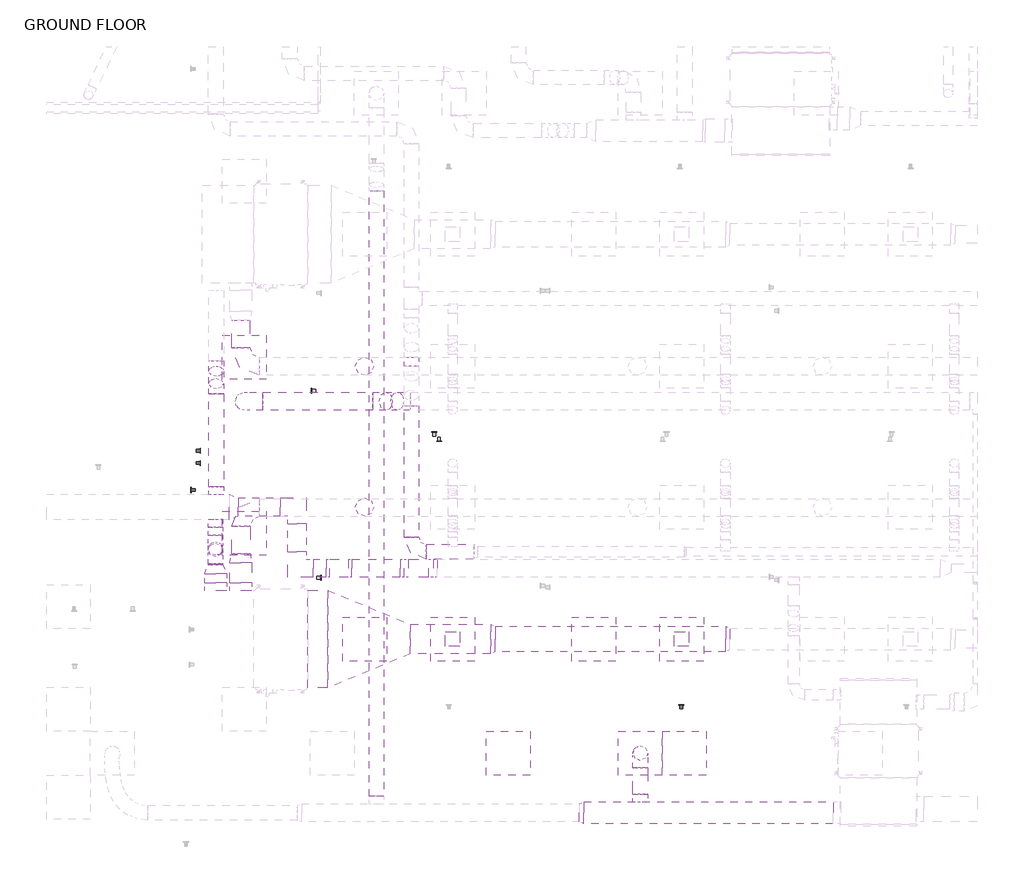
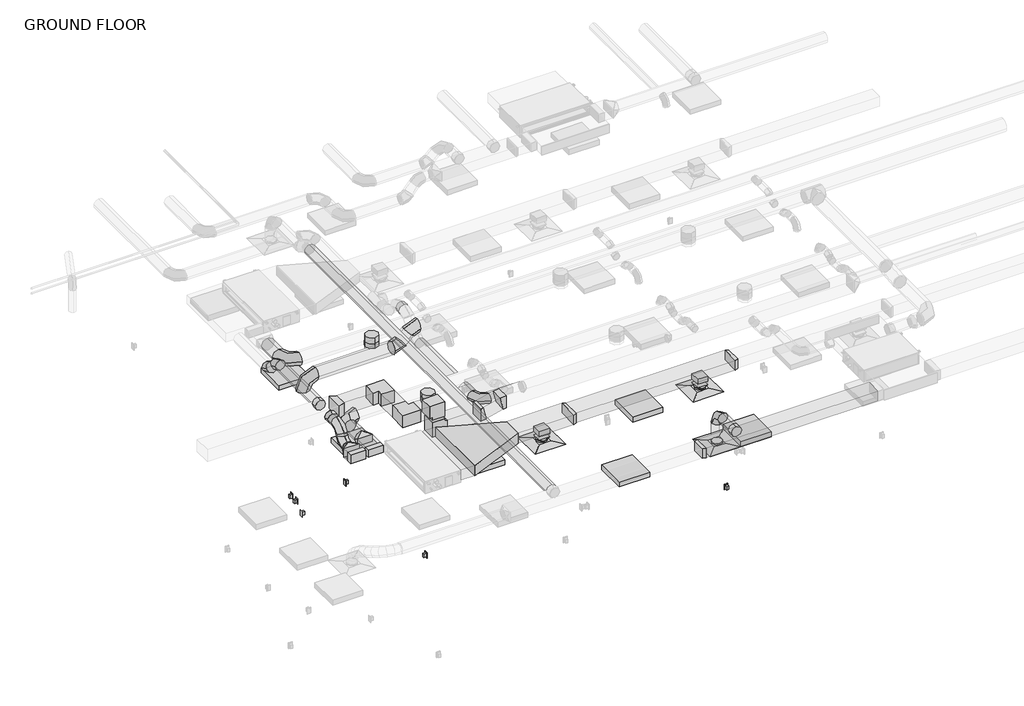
# One storey, part 2 of 20: 35 duct fittings, 31 duct segments, 6 light fixtures, 4 proxies, 4 switching devices, 3 air terminals.
"""IFC4 building model written with IfcOpenShell, lengths in millimetres."""

from ifc_helpers import new_model, si_unit, point, frame, frame_2d, origin, place, context, project, spatial, polyline, circle_curve, trimmed, segment, composite_curve, outline, extrude, transform, mapped, element, save
from components import air_terminal_e9020785, duplex_receptacle_countertop_10251bba, rectangular_elbow_mitered_transition_standard_c0ad29cc, rectangular_elbow_mitered_transition_standard_35919474, rectangular_elbow_radius_1_5_w_4707421c, rectangular_takeoff_standard_d07ea574, rectangular_takeoff_standard_fde45e03, rectangular_takeoff_standard_a8f316fd, rectangular_transition_angle_45_degree_1d311e81, rectangular_transition_angle_45_degree_791ae252, rectangular_transition_angle_45_degree_a1440fe9, rectangular_transition_angle_45_degree_05e1d5e5, rectangular_transition_angle_45_degree_612073dc, rectangular_to_round_transition_angle_45_degree_5a025447, rectangular_to_round_transition_angle_45_degree_789dc1ad, rectangular_to_round_transition_angle_45_degree_93942259, round_elbow_1_d_a253342a, round_elbow_1_d_6fec3262, round_elbow_1_d_ab3aa7ba, round_elbow_1_d_ea3dccb8, round_elbow_1_d_e523f96f, round_takeoff_standard_161717b3, round_takeoff_standard_d3b0d0f9, round_takeoff_standard_1127d77f, round_takeoff_standard_c386a54e, troffer_corner_insert_2x2_3lamp_e67c7f8f

model = new_model("IFC4")

# Units and contexts
model_context = context("Model", 3, world=origin())
ifc_project = project(units=[si_unit("LENGTHUNIT", "METRE", prefix="MILLI")], contexts=[model_context])

# Site, building, storey
site = spatial("IfcSite", under=ifc_project)
building = spatial("IfcBuilding", under=site)
storey = spatial("IfcBuildingStorey", under=building, Name="GROUND FLOOR", Elevation=30480.0)

# Air terminals
placement = place(None, origin())
air_terminal_shape = air_terminal_e9020785(model_context)
element("IfcAirTerminal", 1, ObjectType="Supply Diffuser - Rectangular Face Round Neck - Hosted : 24\"x24\" Face 8\" Neck - Hosted", at=placement, inside=storey, context=model_context, shape_type="MappedRepresentation", body=[
    mapped(air_terminal_shape, transform((-3970.9704607, -4228.1054995, 33223.2), x_axis=(0.0, -1.0, 0.0), y_axis=(-1.0, 0.0, 0.0), z_axis=(0.0, 0.0, -1.0))),
])
element("IfcAirTerminal", 2, ObjectType="Supply Diffuser - Rectangular Face Round Neck - Hosted : 24\"x24\" Face 8\" Neck - Hosted", at=placement, inside=storey, context=model_context, shape_type="MappedRepresentation", body=[
    mapped(air_terminal_shape, transform((-799.1454607, -4228.1054995, 33223.2), x_axis=(0.0, -1.0, 0.0), y_axis=(-1.0, 0.0, 0.0), z_axis=(0.0, 0.0, -1.0))),
])
element("IfcAirTerminal", 3, ObjectType="Supply Diffuser - Rectangular Face Round Neck - Hosted : 24\"x24\" Face 8\" Neck - Hosted", at=placement, inside=storey, context=model_context, shape_type="MappedRepresentation", body=[
    mapped(air_terminal_shape, transform((-1370.6454607, -5809.2554995, 33223.2), x_axis=(0.0, -1.0, 0.0), y_axis=(-1.0, 0.0, 0.0), z_axis=(0.0, 0.0, -1.0))),
])

# Proxies
duplex_receptacle_countertop_shape = duplex_receptacle_countertop_10251bba(model_context)
element("IfcBuildingElementProxy", 4, Name="Duplex Receptacle : Standard", ObjectType="Duplex Receptacle : Standard", at=placement, inside=storey, context=model_context, shape_type="MappedRepresentation", body=[
    mapped(duplex_receptacle_countertop_shape, transform((-5799.7704607, -3377.6052402, 30937.2), x_axis=(0.0, 1.0, 0.0), y_axis=(0.0, 0.0, 1.0), z_axis=(1.0, 0.0, 0.0))),
])
element("IfcBuildingElementProxy", 5, Name="Duplex Receptacle : Standard", ObjectType="Duplex Receptacle : Standard", at=placement, inside=storey, context=model_context, shape_type="MappedRepresentation", body=[
    mapped(duplex_receptacle_countertop_shape, transform((-4158.8399036, -1484.9054995, 30937.2), x_axis=(1.0, 0.0, 0.0), y_axis=(0.0, 0.0, 1.0), z_axis=(0.0, -1.0, 0.0))),
])
element("IfcBuildingElementProxy", 6, Name="Duplex Receptacle : Standard", ObjectType="Duplex Receptacle : Standard", at=placement, inside=storey, context=model_context, shape_type="MappedRepresentation", body=[
    mapped(duplex_receptacle_countertop_shape, transform((-4224.9569269, -1361.0804995, 30937.2), x_axis=(-1.0, 0.0, 0.0), y_axis=(0.0, 0.0, 1.0), z_axis=(0.0, 1.0, 0.0))),
])
element("IfcBuildingElementProxy", 7, Name="Duplex Receptacle : Standard", ObjectType="Duplex Receptacle : Standard", at=placement, inside=storey, context=model_context, shape_type="MappedRepresentation", body=[
    mapped(duplex_receptacle_countertop_shape, transform((-5923.5954607, -788.0218283, 30937.2), x_axis=(0.0, -1.0, 0.0), y_axis=(0.0, 0.0, 1.0), z_axis=(-1.0, 0.0, 0.0))),
])

# Duct fittings
rectangular_elbow_mitered_transition_standard_shape = rectangular_elbow_mitered_transition_standard_c0ad29cc(model_context)
element("IfcDuctFitting", 8, ObjectType="Rectangular Elbow - Mitered - Transition : Standard", at=placement, inside=storey, context=model_context, shape_type="MappedRepresentation", body=[
    mapped(rectangular_elbow_mitered_transition_standard_shape, transform((-6128.144811, -2399.3054995, 33909.0), x_axis=(0.0, 1.0, 0.0), y_axis=(-1.0, 0.0, 0.0), z_axis=(0.0, 0.0, 1.0))),
])
element("IfcDuctFitting", 9, ObjectType="Rectangular Elbow - Mitered - Transition : Standard", at=placement, inside=storey, context=model_context, shape_type="MappedRepresentation", body=[
    mapped(rectangular_elbow_mitered_transition_standard_shape, transform((-6128.144811, -3245.6216457, 33909.0), x_axis=(0.0, -1.0, 0.0), y_axis=(1.0, 0.0, 0.0), z_axis=(0.0, 0.0, 1.0))),
])
rectangular_elbow_mitered_transition_standard_2_shape = rectangular_elbow_mitered_transition_standard_35919474(model_context)
element("IfcDuctFitting", 10, ObjectType="Rectangular Elbow - Mitered - Transition : Standard", at=placement, inside=storey, context=model_context, shape_type="MappedRepresentation", body=[
    mapped(rectangular_elbow_mitered_transition_standard_2_shape, transform((-5543.944811, -3245.6216457, 33909.0), x_axis=(1.0, 0.0, 0.0), y_axis=(0.0, 0.0, -1.0), z_axis=(0.0, 1.0, 0.0))),
])
element("IfcDuctFitting", 11, ObjectType="Rectangular Elbow - Mitered - Transition : Standard", at=placement, inside=storey, context=model_context, shape_type="MappedRepresentation", body=[
    mapped(rectangular_elbow_mitered_transition_standard_2_shape, transform((-5543.944811, -3245.6216457, 33502.6), x_axis=(-1.0, 0.0, 0.0), y_axis=(0.0, 0.0, 1.0), z_axis=(0.0, 1.0, 0.0))),
])
rectangular_elbow_radius_1_5_w_shape = rectangular_elbow_radius_1_5_w_4707421c(model_context)
element("IfcDuctFitting", 12, ObjectType="Rectangular Elbow - Radius : 1.5 W", at=placement, inside=storey, context=model_context, shape_type="MappedRepresentation", body=[
    mapped(rectangular_elbow_radius_1_5_w_shape, transform((-4654.944811, -3245.6216457, 33502.6), x_axis=(1.0, 0.0, 0.0), y_axis=(0.0, 0.0, 1.0), z_axis=(0.0, -1.0, 0.0))),
])
element("IfcDuctFitting", 13, ObjectType="Rectangular Elbow - Radius : 1.5 W", at=placement, inside=storey, context=model_context, shape_type="MappedRepresentation", body=[
    mapped(rectangular_elbow_radius_1_5_w_shape, transform((-4228.8077618, -3245.6216457, 33602.867541), x_axis=(-1.0, 0.0, 0.0), y_axis=(0.0, 0.0, -1.0), z_axis=(0.0, -1.0, 0.0))),
])
rectangular_takeoff_standard_shape = rectangular_takeoff_standard_d07ea574(model_context)
element("IfcDuctFitting", 14, ObjectType="Rectangular Takeoff : Standard", at=placement, inside=storey, context=model_context, shape_type="MappedRepresentation", body=[
    mapped(rectangular_takeoff_standard_shape, transform((-799.1454607, -4228.1054995, 33502.6), x_axis=(0.0, 0.0, -1.0), y_axis=(1.0, 0.0, 0.0), z_axis=(0.0, -1.0, 0.0))),
])
element("IfcDuctFitting", 15, ObjectType="Rectangular Takeoff : Standard", at=placement, inside=storey, context=model_context, shape_type="MappedRepresentation", body=[
    mapped(rectangular_takeoff_standard_shape, transform((-3970.9704607, -4228.1054995, 33502.6), x_axis=(0.0, 0.0, -1.0), y_axis=(1.0, 0.0, 0.0), z_axis=(0.0, -1.0, 0.0))),
])
rectangular_takeoff_standard_2_shape = rectangular_takeoff_standard_fde45e03(model_context)
element("IfcDuctFitting", 16, ObjectType="Rectangular Takeoff : Standard", at=placement, inside=storey, context=model_context, shape_type="MappedRepresentation", body=[
    mapped(rectangular_takeoff_standard_2_shape, transform((-6905.278652, -3550.2429995, 33617.69375), x_axis=(0.0, 1.0, 0.0), y_axis=(-1.0, 0.0, 0.0), z_axis=(0.0, 0.0, 1.0))),
])
rectangular_takeoff_standard_3_shape = rectangular_takeoff_standard_a8f316fd(model_context)
element("IfcDuctFitting", 17, ObjectType="Rectangular Takeoff : Standard", at=placement, inside=storey, context=model_context, shape_type="MappedRepresentation", body=[
    mapped(rectangular_takeoff_standard_3_shape, transform((-7257.09369, -3550.2429995, 33617.69375), x_axis=(0.0, 1.0, 0.0), y_axis=(1.0, 0.0, 0.0), z_axis=(0.0, 0.0, -1.0))),
])
rectangular_transition_angle_45_degree_shape = rectangular_transition_angle_45_degree_1d311e81(model_context)
element("IfcDuctFitting", 18, ObjectType="Rectangular Transition - Angle : 45 Degree", at=placement, inside=storey, context=model_context, shape_type="MappedRepresentation", body=[
    mapped(rectangular_transition_angle_45_degree_shape, transform((-2152.8792966, -6635.2850038, 33877.25), x_axis=(-1.0, 0.0, 0.0), y_axis=(0.0, -1.0, 0.0), z_axis=(0.0, 0.0, 1.0))),
])
rectangular_transition_angle_45_degree_2_shape = rectangular_transition_angle_45_degree_791ae252(model_context)
element("IfcDuctFitting", 19, ObjectType="Rectangular Transition - Angle : 45 Degree", at=placement, inside=storey, context=model_context, shape_type="MappedRepresentation", body=[
    mapped(rectangular_transition_angle_45_degree_2_shape, transform((-3441.5200089, -4228.1054995, 33604.2), x_axis=(1.0, 0.0, 0.0), y_axis=(0.0, 1.0, 0.0), z_axis=(0.0, 0.0, 1.0))),
])
rectangular_transition_angle_45_degree_3_shape = rectangular_transition_angle_45_degree_a1440fe9(model_context)
element("IfcDuctFitting", 20, ObjectType="Rectangular Transition - Angle : 45 Degree", at=placement, inside=storey, context=model_context, shape_type="MappedRepresentation", body=[
    mapped(rectangular_transition_angle_45_degree_3_shape, transform((-189.5454607, -4228.1054995, 33604.2), x_axis=(1.0, 0.0, 0.0), y_axis=(0.0, 1.0, 0.0), z_axis=(0.0, 0.0, 1.0))),
])
rectangular_transition_angle_45_degree_4_shape = rectangular_transition_angle_45_degree_05e1d5e5(model_context)
element("IfcDuctFitting", 21, ObjectType="Rectangular Transition - Angle : 45 Degree", at=placement, inside=storey, context=model_context, shape_type="MappedRepresentation", body=[
    mapped(rectangular_transition_angle_45_degree_4_shape, transform((-4556.1833638, -4228.1054995, 33604.2), x_axis=(-1.0, 0.0, 0.0), y_axis=(0.0, -1.0, 0.0), z_axis=(0.0, 0.0, 1.0))),
])
rectangular_transition_angle_45_degree_5_shape = rectangular_transition_angle_45_degree_612073dc(model_context)
element("IfcDuctFitting", 22, ObjectType="Rectangular Transition - Angle : 45 Degree", at=placement, inside=storey, context=model_context, shape_type="MappedRepresentation", body=[
    mapped(rectangular_transition_angle_45_degree_5_shape, transform((-7067.944811, -2399.3054995, 33909.0), x_axis=(1.0, 0.0, 0.0), y_axis=(0.0, 1.0, 0.0), z_axis=(0.0, 0.0, 1.0))),
])
rectangular_to_round_transition_angle_45_degree_shape = rectangular_to_round_transition_angle_45_degree_5a025447(model_context)
element("IfcDuctFitting", 23, ObjectType="Rectangular to Round Transition - Angle : 45 Degree", at=placement, inside=storey, context=model_context, shape_type="MappedRepresentation", body=[
    mapped(rectangular_to_round_transition_angle_45_degree_shape, transform((-799.1454607, -4228.1054995, 33327.975), x_axis=(0.0, 0.0, -1.0), y_axis=(1.0, 0.0, 0.0), z_axis=(0.0, -1.0, 0.0))),
])
element("IfcDuctFitting", 24, ObjectType="Rectangular to Round Transition - Angle : 45 Degree", at=placement, inside=storey, context=model_context, shape_type="MappedRepresentation", body=[
    mapped(rectangular_to_round_transition_angle_45_degree_shape, transform((-3970.9704607, -4228.1054995, 33327.975), x_axis=(0.0, 0.0, -1.0), y_axis=(1.0, 0.0, 0.0), z_axis=(0.0, -1.0, 0.0))),
])
rectangular_to_round_transition_angle_45_degree_2_shape = rectangular_to_round_transition_angle_45_degree_789dc1ad(model_context)
element("IfcDuctFitting", 25, ObjectType="Rectangular to Round Transition - Angle : 45 Degree", at=placement, inside=storey, context=model_context, shape_type="MappedRepresentation", body=[
    mapped(rectangular_to_round_transition_angle_45_degree_2_shape, transform((-6905.278652, -3169.2429995, 33617.69375), x_axis=(0.0, 1.0, 0.0), y_axis=(-1.0, 0.0, 0.0), z_axis=(0.0, 0.0, 1.0))),
])
rectangular_to_round_transition_angle_45_degree_3_shape = rectangular_to_round_transition_angle_45_degree_93942259(model_context)
element("IfcDuctFitting", 26, ObjectType="Rectangular to Round Transition - Angle : 45 Degree", at=placement, inside=storey, context=model_context, shape_type="MappedRepresentation", body=[
    mapped(rectangular_to_round_transition_angle_45_degree_3_shape, transform((-7257.09369, -3321.6429995, 33617.69375), x_axis=(0.0, 1.0, 0.0), y_axis=(-1.0, 0.0, 0.0), z_axis=(0.0, 0.0, 1.0))),
])
round_elbow_1_d_shape = round_elbow_1_d_a253342a(model_context)
element("IfcDuctFitting", 27, ObjectType="Round Elbow : 1 D", at=placement, inside=storey, context=model_context, shape_type="MappedRepresentation", body=[
    mapped(round_elbow_1_d_shape, transform((-4541.976464, -3019.0145579, 33528.0), x_axis=(0.0, -1.0, 0.0), y_axis=(1.0, 0.0, 0.0), z_axis=(0.0, 0.0, 1.0))),
])
element("IfcDuctFitting", 28, ObjectType="Round Elbow : 1 D", at=placement, inside=storey, context=model_context, shape_type="MappedRepresentation", body=[
    mapped(round_elbow_1_d_shape, transform((-1370.6454607, -5809.2554995, 33877.25), x_axis=(0.0, 0.0, 1.0), y_axis=(0.0, -1.0, 0.0), z_axis=(1.0, 0.0, 0.0))),
])
round_elbow_1_d_2_shape = round_elbow_1_d_6fec3262(model_context)
element("IfcDuctFitting", 29, ObjectType="Round Elbow : 1 D", at=placement, inside=storey, context=model_context, shape_type="MappedRepresentation", body=[
    mapped(round_elbow_1_d_2_shape, transform((-6857.0454607, -932.4554995, 33578.8), x_axis=(0.0, 0.0, 1.0), y_axis=(1.0, 0.0, 0.0), z_axis=(0.0, 1.0, 0.0))),
])
element("IfcDuctFitting", 30, ObjectType="Round Elbow : 1 D", at=placement, inside=storey, context=model_context, shape_type="MappedRepresentation", body=[
    mapped(round_elbow_1_d_2_shape, transform((-6905.278652, -2407.6759121, 33617.69375), x_axis=(-1.0, 0.0, 0.0), y_axis=(0.0, -1.0, 0.0), z_axis=(0.0, 0.0, 1.0))),
])
element("IfcDuctFitting", 31, ObjectType="Round Elbow : 1 D", at=placement, inside=storey, context=model_context, shape_type="MappedRepresentation", body=[
    mapped(round_elbow_1_d_2_shape, transform((-6907.4143044, -446.6804995, 33617.69375), x_axis=(0.0, -1.0, 0.0), y_axis=(1.0, 0.0, 0.0), z_axis=(0.0, 0.0, 1.0))),
])
round_elbow_1_d_3_shape = round_elbow_1_d_ab3aa7ba(model_context)
element("IfcDuctFitting", 32, ObjectType="Round Elbow : 1 D", at=placement, inside=storey, context=model_context, shape_type="MappedRepresentation", body=[
    mapped(round_elbow_1_d_3_shape, transform((-7247.6134283, -456.5972917, 33617.69375), x_axis=(0.0, -1.0, 0.0), y_axis=(0.0, 0.0, 1.0), z_axis=(-1.0, 0.0, 0.0))),
])
element("IfcDuctFitting", 33, ObjectType="Round Elbow : 1 D", at=placement, inside=storey, context=model_context, shape_type="MappedRepresentation", body=[
    mapped(round_elbow_1_d_3_shape, transform((-7247.6134283, -747.9035417, 33909.0), x_axis=(0.0, -0.7071067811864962, 0.7071067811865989), y_axis=(0.0, -0.7071067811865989, -0.7071067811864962), z_axis=(1.0, 0.0, 0.0))),
])
round_elbow_1_d_4_shape = round_elbow_1_d_ea3dccb8(model_context)
element("IfcDuctFitting", 34, ObjectType="Round Elbow : 1 D", at=placement, inside=storey, context=model_context, shape_type="MappedRepresentation", body=[
    mapped(round_elbow_1_d_4_shape, transform((-4664.8198591, -932.4554995, 33883.6), x_axis=(-1.0, 0.0, 0.0), y_axis=(0.0, 0.0, -1.0), z_axis=(0.0, -1.0, 0.0))),
])
element("IfcDuctFitting", 35, ObjectType="Round Elbow : 1 D", at=placement, inside=storey, context=model_context, shape_type="MappedRepresentation", body=[
    mapped(round_elbow_1_d_4_shape, transform((-4969.6198591, -932.4554995, 33578.8), x_axis=(-0.7071067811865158, 0.0, -0.7071067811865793), y_axis=(-0.7071067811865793, 0.0, 0.7071067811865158), z_axis=(0.0, 1.0, 0.0))),
])
round_elbow_1_d_5_shape = round_elbow_1_d_e523f96f(model_context)
element("IfcDuctFitting", 36, ObjectType="Round Elbow : 1 D", at=placement, inside=storey, context=model_context, shape_type="MappedRepresentation", body=[
    mapped(round_elbow_1_d_5_shape, transform((-7257.09369, -3046.6009505, 33617.69375), x_axis=(0.0, 1.0, 0.0), y_axis=(0.0, 0.0, 1.0), z_axis=(1.0, 0.0, 0.0))),
])
element("IfcDuctFitting", 37, ObjectType="Round Elbow : 1 D", at=placement, inside=storey, context=model_context, shape_type="MappedRepresentation", body=[
    mapped(round_elbow_1_d_5_shape, transform((-7257.09369, -2922.9487836, 33909.0), x_axis=(0.0, 0.3907311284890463, 0.920504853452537), y_axis=(0.0, 0.920504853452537, -0.3907311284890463), z_axis=(-1.0, 0.0, 0.0))),
])
round_takeoff_standard_shape = round_takeoff_standard_161717b3(model_context)
element("IfcDuctFitting", 38, ObjectType="Round Takeoff : Standard", at=placement, inside=storey, context=model_context, shape_type="MappedRepresentation", body=[
    mapped(round_takeoff_standard_shape, transform((-5190.1704607, -2399.3054995, 33490.69375), x_axis=(0.0, 0.0, -1.0), y_axis=(-1.0, 0.0, 0.0), z_axis=(0.0, 1.0, 0.0))),
])
round_takeoff_standard_2_shape = round_takeoff_standard_d3b0d0f9(model_context)
element("IfcDuctFitting", 39, ObjectType="Round Takeoff : Standard", at=placement, inside=storey, context=model_context, shape_type="MappedRepresentation", body=[
    mapped(round_takeoff_standard_2_shape, transform((-7247.6134283, -2221.5054995, 33909.0), x_axis=(0.0, 1.0, 0.0), y_axis=(1.0, 0.0, 0.0), z_axis=(0.0, 0.0, -1.0))),
])
element("IfcDuctFitting", 40, ObjectType="Round Takeoff : Standard", at=placement, inside=storey, context=model_context, shape_type="MappedRepresentation", body=[
    mapped(round_takeoff_standard_2_shape, transform((-1370.6454607, -6482.8850038, 33877.25), x_axis=(0.0, 1.0, 0.0), y_axis=(1.0, 0.0, 0.0), z_axis=(0.0, 0.0, -1.0))),
])
round_takeoff_standard_3_shape = round_takeoff_standard_1127d77f(model_context)
element("IfcDuctFitting", 41, ObjectType="Round Takeoff : Standard", at=placement, inside=storey, context=model_context, shape_type="MappedRepresentation", body=[
    mapped(round_takeoff_standard_3_shape, transform((-7257.09369, -2577.1054995, 33909.0), x_axis=(0.0, -1.0, 0.0), y_axis=(-1.0, 0.0, 0.0), z_axis=(0.0, 0.0, -1.0))),
])
round_takeoff_standard_4_shape = round_takeoff_standard_c386a54e(model_context)
element("IfcDuctFitting", 42, ObjectType="Round Takeoff : Standard", at=placement, inside=storey, context=model_context, shape_type="MappedRepresentation", body=[
    mapped(round_takeoff_standard_4_shape, transform((-5190.1704607, -446.6804995, 33490.69375), x_axis=(0.0, 0.0, -1.0), y_axis=(-1.0, 0.0, 0.0), z_axis=(0.0, 1.0, 0.0))),
])

# Duct segments
element("IfcDuctSegment", 43, ObjectType="Mitered Elbows / Taps", at=placement, inside=storey, context=model_context, shape_type="SweptSolid", body=[
    extrude(outline(polyline([(1301.5207034, -6482.8850038), (1301.5207034, -6787.6850038), (-2152.8792966, -6787.6850038), (-2152.8792966, -6482.8850038), (1301.5207034, -6482.8850038)])), frame((0.0, 0.0, 33775.65), z_axis=(0.0, 0.0, 1.0), x_axis=(1.0, 0.0, 0.0)), (0.0, 0.0, 1.0), 203.2),
])
element("IfcDuctSegment", 44, ObjectType="Mitered Elbows / Taps", at=placement, inside=storey, context=model_context, shape_type="SweptSolid", body=[
    extrude(outline(polyline([(-3380.1989844, -4405.9054995), (-3380.1989844, -4050.3054995), (-189.5454607, -4050.3054995), (-189.5454607, -4405.9054995), (-3380.1989844, -4405.9054995)])), frame((0.0, 0.0, 33502.6), z_axis=(0.0, 0.0, 1.0), x_axis=(1.0, 0.0, 0.0)), (0.0, 0.0, 1.0), 203.2),
])
element("IfcDuctSegment", 45, ObjectType="Mitered Elbows / Taps", at=placement, inside=storey, context=model_context, shape_type="SweptSolid", body=[
    extrude(outline(polyline([(-5978.8768914, -4905.9679995), (-5978.8768914, -3550.2429995), (-5702.1200089, -3550.2429995), (-5702.1200089, -4905.9679995), (-5978.8768914, -4905.9679995)])), frame((0.0, 0.0, 33501.0125), z_axis=(0.0, 0.0, 1.0), x_axis=(1.0, 0.0, 0.0)), (0.0, 0.0, 1.0), 206.375),
])
element("IfcDuctSegment", 46, ObjectType="Mitered Elbows / Taps", at=placement, inside=storey, context=model_context, shape_type="SweptSolid", body=[
    extrude(outline(polyline([(-3441.5200089, -4024.9054995), (-3441.5200089, -4431.3054995), (-4556.1833638, -4431.3054995), (-4556.1833638, -4024.9054995), (-3441.5200089, -4024.9054995)])), frame((0.0, 0.0, 33502.6), z_axis=(0.0, 0.0, 1.0), x_axis=(1.0, 0.0, 0.0)), (0.0, 0.0, 1.0), 203.2),
])
element("IfcDuctSegment", 47, ObjectType="Mitered Elbows / Taps", at=placement, inside=storey, context=model_context, shape_type="SweptSolid", body=[
    extrude(outline(polyline([(-900.7454607, -4126.5054995), (-697.5454607, -4126.5054995), (-697.5454607, -4329.7054995), (-900.7454607, -4329.7054995), (-900.7454607, -4126.5054995)])), frame((0.0, 0.0, 33327.975), z_axis=(0.0, 0.0, 1.0), x_axis=(1.0, 0.0, 0.0)), (0.0, 0.0, 1.0), 73.025),
])
element("IfcDuctSegment", 48, ObjectType="Mitered Elbows / Taps", at=placement, inside=storey, context=model_context, shape_type="SweptSolid", body=[
    extrude(outline(polyline([(-4072.5704607, -4126.5054995), (-3869.3704607, -4126.5054995), (-3869.3704607, -4329.7054995), (-4072.5704607, -4329.7054995), (-4072.5704607, -4126.5054995)])), frame((0.0, 0.0, 33327.975), z_axis=(0.0, 0.0, 1.0), x_axis=(1.0, 0.0, 0.0)), (0.0, 0.0, 1.0), 73.025),
])
element("IfcDuctSegment", 49, ObjectType="Mitered Elbows / Taps", at=placement, inside=storey, context=model_context, shape_type="SweptSolid", body=[
    extrude(outline(polyline([(-6752.878652, -3448.6429995), (-7057.678652, -3448.6429995), (-7057.678652, -3169.2429995), (-6752.878652, -3169.2429995), (-6752.878652, -3448.6429995)])), frame((0.0, 0.0, 33541.49375), z_axis=(0.0, 0.0, 1.0), x_axis=(1.0, 0.0, 0.0)), (0.0, 0.0, 1.0), 152.4),
])
element("IfcDuctSegment", 50, ObjectType="Mitered Elbows / Taps", at=placement, inside=storey, context=model_context, shape_type="SweptSolid", body=[
    extrude(outline(polyline([(-6945.302762, -2526.3054995), (-6945.302762, -2272.3054995), (-6356.744811, -2272.3054995), (-6356.744811, -2526.3054995), (-6945.302762, -2526.3054995)])), frame((0.0, 0.0, 33782.0), z_axis=(0.0, 0.0, 1.0), x_axis=(1.0, 0.0, 0.0)), (0.0, 0.0, 1.0), 254.0),
])
element("IfcDuctSegment", 51, ObjectType="Mitered Elbows / Taps", at=placement, inside=storey, context=model_context, shape_type="SweptSolid", body=[
    extrude(outline(polyline([(-6255.144811, -2627.9054995), (-6001.144811, -2627.9054995), (-6001.144811, -3017.0216457), (-6255.144811, -3017.0216457), (-6255.144811, -2627.9054995)])), frame((0.0, 0.0, 33782.0), z_axis=(0.0, 0.0, 1.0), x_axis=(1.0, 0.0, 0.0)), (0.0, 0.0, 1.0), 254.0),
])
element("IfcDuctSegment", 52, ObjectType="Mitered Elbows / Taps", at=placement, inside=storey, context=model_context, shape_type="SweptSolid", body=[
    extrude(outline(polyline([(-7104.69369, -3448.6429995), (-7409.49369, -3448.6429995), (-7409.49369, -3321.6429995), (-7104.69369, -3321.6429995), (-7104.69369, -3448.6429995)])), frame((0.0, 0.0, 33528.79375), z_axis=(0.0, 0.0, 1.0), x_axis=(1.0, 0.0, 0.0)), (0.0, 0.0, 1.0), 177.8),
])
element("IfcDuctSegment", 53, ObjectType="Mitered Elbows / Taps", at=placement, inside=storey, context=model_context, shape_type="SweptSolid", body=[
    extrude(outline(polyline([(-5899.544811, -3372.6216457), (-5899.544811, -3118.6216457), (-5721.744811, -3118.6216457), (-5721.744811, -3372.6216457), (-5899.544811, -3372.6216457)])), frame((0.0, 0.0, 33782.0), z_axis=(0.0, 0.0, 1.0), x_axis=(1.0, 0.0, 0.0)), (0.0, 0.0, 1.0), 254.0),
])
element("IfcDuctSegment", 54, ObjectType="Mitered Elbows / Taps", at=placement, inside=storey, context=model_context, shape_type="SweptSolid", body=[
    extrude(outline(polyline([(-5416.944811, -3372.6216457), (-5670.944811, -3372.6216457), (-5670.944811, -3118.6216457), (-5416.944811, -3118.6216457), (-5416.944811, -3372.6216457)])), frame((0.0, 0.0, 33680.4), z_axis=(0.0, 0.0, 1.0), x_axis=(1.0, 0.0, 0.0)), (0.0, 0.0, 1.0), 50.8),
])
element("IfcDuctSegment", 55, ObjectType="Radius Elbows / Taps", at=placement, inside=storey, context=model_context, shape_type="SweptSolid", body=[
    extrude(outline(polyline([(-5366.144811, -3372.6216457), (-5366.144811, -3118.6216457), (-4699.164547, -3118.6216457), (-4699.164547, -3372.6216457), (-5366.144811, -3372.6216457)])), frame((0.0, 0.0, 33375.6), z_axis=(0.0, 0.0, 1.0), x_axis=(1.0, 0.0, 0.0)), (0.0, 0.0, 1.0), 254.0),
])
element("IfcDuctSegment", 56, ObjectType="Radius Elbows / Taps", at=placement, inside=storey, context=model_context, shape_type="SweptSolid", body=[
    extrude(outline(polyline([(0.0, -254.0), (0.0, 0.0), (349.3348585, 0.0), (349.3348585, -254.0), (0.0, -254.0)])), frame((-4582.8125654, -3118.6216457, 33389.1040785), z_axis=(-0.22903933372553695, 0.0, 0.9734171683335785), x_axis=(0.9734171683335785, 0.0, 0.22903933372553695)), (0.0, 0.0, 1.0), 254.0),
])
element("IfcDuctSegment", 57, ObjectType="Taps / Short Radius", at=placement, inside=storey, context=model_context, shape_type="SweptSolid", body=[
    extrude(outline(composite_curve([segment(trimmed(circle_curve(frame_2d((-932.4554995, 33578.8)), 127.0), [point((-805.4554995, 33578.8))], [point((-932.4554995, 33451.8))], False, "CARTESIAN"), True, "CONTINUOUS"), segment(trimmed(circle_curve(frame_2d((-932.4554995, 33578.8)), 127.0), [point((-932.4554995, 33451.8))], [point((-1059.4554995, 33578.8))], False, "CARTESIAN"), True, "CONTINUOUS"), segment(trimmed(circle_curve(frame_2d((-932.4554995, 33578.8)), 127.0), [point((-1059.4554995, 33578.8))], [point((-932.4554995, 33705.8))], False, "CARTESIAN"), True, "CONTINUOUS"), segment(trimmed(circle_curve(frame_2d((-932.4554995, 33578.8)), 127.0), [point((-932.4554995, 33705.8))], [point((-805.4554995, 33578.8))], False, "CARTESIAN"), True, "CONTINUOUS")], self_intersect=False)), frame((-6603.0454607, 0.0, 0.0), z_axis=(1.0, 0.0, 0.0), x_axis=(0.0, 1.0, 0.0)), (0.0, 0.0, 1.0), 1528.2153568),
])
element("IfcDuctSegment", 58, ObjectType="Taps / Short Radius", at=placement, inside=storey, context=model_context, shape_type="SweptSolid", body=[
    extrude(outline(composite_curve([segment(trimmed(circle_curve(frame_2d((0.0, -127.0)), 127.0), [point((0.0, 0.0))], [point((127.0, -127.0))], False, "CARTESIAN"), True, "CONTINUOUS"), segment(trimmed(circle_curve(frame_2d((0.0, -127.0)), 127.0), [point((127.0, -127.0))], [point((0.0, -254.0))], False, "CARTESIAN"), True, "CONTINUOUS"), segment(trimmed(circle_curve(frame_2d((0.0, -127.0)), 127.0), [point((0.0, -254.0))], [point((-127.0, -127.0))], False, "CARTESIAN"), True, "CONTINUOUS"), segment(trimmed(circle_curve(frame_2d((0.0, -127.0)), 127.0), [point((-127.0, -127.0))], [point((0.0, 0.0))], False, "CARTESIAN"), True, "CONTINUOUS")], self_intersect=False)), frame((-4895.2249815, -805.4554995, 33653.1948776), z_axis=(0.7071067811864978, 0.0, 0.7071067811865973), x_axis=(0.7071067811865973, 0.0, -0.7071067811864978)), (0.0, 0.0, 1.0), 220.6318041),
])
element("IfcDuctSegment", 59, ObjectType="Taps / Short Radius", at=placement, inside=storey, context=model_context, shape_type="SweptSolid", body=[
    extrude(outline(composite_curve([segment(trimmed(circle_curve(frame_2d((33617.69375, -6905.278652)), 127.0), [point((33617.69375, -6778.278652))], [point((33744.69375, -6905.278652))], False, "CARTESIAN"), True, "CONTINUOUS"), segment(trimmed(circle_curve(frame_2d((33617.69375, -6905.278652)), 127.0), [point((33744.69375, -6905.278652))], [point((33617.69375, -7032.278652))], False, "CARTESIAN"), True, "CONTINUOUS"), segment(trimmed(circle_curve(frame_2d((33617.69375, -6905.278652)), 127.0), [point((33617.69375, -7032.278652))], [point((33490.69375, -6905.278652))], False, "CARTESIAN"), True, "CONTINUOUS"), segment(trimmed(circle_curve(frame_2d((33617.69375, -6905.278652)), 127.0), [point((33490.69375, -6905.278652))], [point((33617.69375, -6778.278652))], False, "CARTESIAN"), True, "CONTINUOUS")], self_intersect=False)), frame((0.0, -3046.6009505, 0.0), z_axis=(0.0, 1.0, 0.0), x_axis=(0.0, 0.0, 1.0)), (0.0, 0.0, 1.0), 384.9250384),
])
element("IfcDuctSegment", 60, ObjectType="Taps / Short Radius", at=placement, inside=storey, context=model_context, shape_type="SweptSolid", body=[
    extrude(outline(composite_curve([segment(trimmed(circle_curve(frame_2d((-5190.1704607, -2399.3054995)), 127.0), [point((-5317.1704607, -2399.3054995))], [point((-5190.1704607, -2272.3054995))], False, "CARTESIAN"), True, "CONTINUOUS"), segment(trimmed(circle_curve(frame_2d((-5190.1704607, -2399.3054995)), 127.0), [point((-5190.1704607, -2272.3054995))], [point((-5063.1704607, -2399.3054995))], False, "CARTESIAN"), True, "CONTINUOUS"), segment(trimmed(circle_curve(frame_2d((-5190.1704607, -2399.3054995)), 127.0), [point((-5063.1704607, -2399.3054995))], [point((-5190.1704607, -2526.3054995))], False, "CARTESIAN"), True, "CONTINUOUS"), segment(trimmed(circle_curve(frame_2d((-5190.1704607, -2399.3054995)), 127.0), [point((-5190.1704607, -2526.3054995))], [point((-5317.1704607, -2399.3054995))], False, "CARTESIAN"), True, "CONTINUOUS")], self_intersect=False)), frame((0.0, 0.0, 33324.8), z_axis=(0.0, 0.0, 1.0), x_axis=(1.0, 0.0, 0.0)), (0.0, 0.0, 1.0), 64.29375),
])
element("IfcDuctSegment", 61, ObjectType="Taps / Short Radius", at=placement, inside=storey, context=model_context, shape_type="SweptSolid", body=[
    extrude(outline(composite_curve([segment(trimmed(circle_curve(frame_2d((33617.69375, -6907.4143044)), 127.0), [point((33617.69375, -7034.4143044))], [point((33490.69375, -6907.4143044))], False, "CARTESIAN"), True, "CONTINUOUS"), segment(trimmed(circle_curve(frame_2d((33617.69375, -6907.4143044)), 127.0), [point((33490.69375, -6907.4143044))], [point((33617.69375, -6780.4143044))], False, "CARTESIAN"), True, "CONTINUOUS"), segment(trimmed(circle_curve(frame_2d((33617.69375, -6907.4143044)), 127.0), [point((33617.69375, -6780.4143044))], [point((33744.69375, -6907.4143044))], False, "CARTESIAN"), True, "CONTINUOUS"), segment(trimmed(circle_curve(frame_2d((33617.69375, -6907.4143044)), 127.0), [point((33744.69375, -6907.4143044))], [point((33617.69375, -7034.4143044))], False, "CARTESIAN"), True, "CONTINUOUS")], self_intersect=False)), frame((0.0, -192.6804995, 0.0), z_axis=(0.0, 1.0, 0.0), x_axis=(0.0, 0.0, 1.0)), (0.0, 0.0, 1.0), 385.357951),
])
element("IfcDuctSegment", 62, ObjectType="Taps / Short Radius", at=placement, inside=storey, context=model_context, shape_type="SweptSolid", body=[
    extrude(outline(composite_curve([segment(trimmed(circle_curve(frame_2d((-5190.1704607, -446.6804995)), 127.0), [point((-5317.1704607, -446.6804995))], [point((-5190.1704607, -319.6804995))], False, "CARTESIAN"), True, "CONTINUOUS"), segment(trimmed(circle_curve(frame_2d((-5190.1704607, -446.6804995)), 127.0), [point((-5190.1704607, -319.6804995))], [point((-5063.1704607, -446.6804995))], False, "CARTESIAN"), True, "CONTINUOUS"), segment(trimmed(circle_curve(frame_2d((-5190.1704607, -446.6804995)), 127.0), [point((-5063.1704607, -446.6804995))], [point((-5190.1704607, -573.6804995))], False, "CARTESIAN"), True, "CONTINUOUS"), segment(trimmed(circle_curve(frame_2d((-5190.1704607, -446.6804995)), 127.0), [point((-5190.1704607, -573.6804995))], [point((-5317.1704607, -446.6804995))], False, "CARTESIAN"), True, "CONTINUOUS")], self_intersect=False)), frame((0.0, 0.0, 33324.8), z_axis=(0.0, 0.0, 1.0), x_axis=(1.0, 0.0, 0.0)), (0.0, 0.0, 1.0), 64.29375),
])
element("IfcDuctSegment", 63, ObjectType="Taps / Short Radius", at=placement, inside=storey, context=model_context, shape_type="SweptSolid", body=[
    extrude(outline(composite_curve([segment(trimmed(circle_curve(frame_2d((0.0, 101.6)), 101.6), [point((-101.6, 101.6))], [point((0.0, 203.2))], False, "CARTESIAN"), True, "CONTINUOUS"), segment(trimmed(circle_curve(frame_2d((0.0, 101.6)), 101.6), [point((0.0, 203.2))], [point((101.6, 101.6))], False, "CARTESIAN"), True, "CONTINUOUS"), segment(trimmed(circle_curve(frame_2d((0.0, 101.6)), 101.6), [point((101.6, 101.6))], [point((0.0, 0.0))], False, "CARTESIAN"), True, "CONTINUOUS"), segment(trimmed(circle_curve(frame_2d((0.0, 101.6)), 101.6), [point((0.0, 0.0))], [point((-101.6, 101.6))], False, "CARTESIAN"), True, "CONTINUOUS")], self_intersect=False)), frame((-7247.6134283, -587.9552428, 33605.3676031), z_axis=(0.0, -0.7071067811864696, 0.7071067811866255), x_axis=(1.0, 0.0, 0.0)), (0.0, 0.0, 1.0), 243.6328578),
])
element("IfcDuctSegment", 64, ObjectType="Taps / Short Radius", at=placement, inside=storey, context=model_context, shape_type="SweptSolid", body=[
    extrude(outline(composite_curve([segment(trimmed(circle_curve(frame_2d((33909.0, -7247.6134283)), 101.6), [point((33909.0, -7146.0134283))], [point((34010.6, -7247.6134283))], False, "CARTESIAN"), True, "CONTINUOUS"), segment(trimmed(circle_curve(frame_2d((33909.0, -7247.6134283)), 101.6), [point((34010.6, -7247.6134283))], [point((33909.0, -7349.2134283))], False, "CARTESIAN"), True, "CONTINUOUS"), segment(trimmed(circle_curve(frame_2d((33909.0, -7247.6134283)), 101.6), [point((33909.0, -7349.2134283))], [point((33807.4, -7247.6134283))], False, "CARTESIAN"), True, "CONTINUOUS"), segment(trimmed(circle_curve(frame_2d((33909.0, -7247.6134283)), 101.6), [point((33807.4, -7247.6134283))], [point((33909.0, -7146.0134283))], False, "CARTESIAN"), True, "CONTINUOUS")], self_intersect=False)), frame((0.0, -2119.9054995, 0.0), z_axis=(0.0, 1.0, 0.0), x_axis=(0.0, 0.0, 1.0)), (0.0, 0.0, 1.0), 1287.8337619),
])
element("IfcDuctSegment", 65, ObjectType="Taps / Short Radius", at=placement, inside=storey, context=model_context, shape_type="SweptSolid", body=[
    extrude(outline(composite_curve([segment(trimmed(circle_curve(frame_2d((33617.69375, -7257.09369)), 101.6), [point((33617.69375, -7155.49369))], [point((33719.29375, -7257.09369))], False, "CARTESIAN"), True, "CONTINUOUS"), segment(trimmed(circle_curve(frame_2d((33617.69375, -7257.09369)), 101.6), [point((33719.29375, -7257.09369))], [point((33617.69375, -7358.69369))], False, "CARTESIAN"), True, "CONTINUOUS"), segment(trimmed(circle_curve(frame_2d((33617.69375, -7257.09369)), 101.6), [point((33617.69375, -7358.69369))], [point((33516.09375, -7257.09369))], False, "CARTESIAN"), True, "CONTINUOUS"), segment(trimmed(circle_curve(frame_2d((33617.69375, -7257.09369)), 101.6), [point((33516.09375, -7257.09369))], [point((33617.69375, -7155.49369))], False, "CARTESIAN"), True, "CONTINUOUS")], self_intersect=False)), frame((0.0, -3199.0009505, 0.0), z_axis=(0.0, 1.0, 0.0), x_axis=(0.0, 0.0, 1.0)), (0.0, 0.0, 1.0), 17.904854),
])
element("IfcDuctSegment", 66, ObjectType="Taps / Short Radius", at=placement, inside=storey, context=model_context, shape_type="SweptSolid", body=[
    extrude(outline(composite_curve([segment(trimmed(circle_curve(frame_2d((0.0, 101.6)), 101.6), [point((101.6, 101.6))], [point((0.0, 0.0))], False, "CARTESIAN"), True, "CONTINUOUS"), segment(trimmed(circle_curve(frame_2d((0.0, 101.6)), 101.6), [point((0.0, 0.0))], [point((-101.6, 101.6))], False, "CARTESIAN"), True, "CONTINUOUS"), segment(trimmed(circle_curve(frame_2d((0.0, 101.6)), 101.6), [point((-101.6, 101.6))], [point((0.0, 203.2))], False, "CARTESIAN"), True, "CONTINUOUS"), segment(trimmed(circle_curve(frame_2d((0.0, 101.6)), 101.6), [point((0.0, 203.2))], [point((101.6, 101.6))], False, "CARTESIAN"), True, "CONTINUOUS")], self_intersect=False)), frame((-7257.09369, -3087.5728034, 33781.1954673), z_axis=(0.0, 0.3907311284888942, 0.9205048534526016), x_axis=(1.0, 0.0, 0.0)), (0.0, 0.0, 1.0), 47.4732756),
])
element("IfcDuctSegment", 67, ObjectType="Taps / Short Radius", at=placement, inside=storey, context=model_context, shape_type="SweptSolid", body=[
    extrude(outline(composite_curve([segment(trimmed(circle_curve(frame_2d((33909.0, -7257.09369)), 101.6), [point((33909.0, -7358.69369))], [point((33807.4, -7257.09369))], False, "CARTESIAN"), True, "CONTINUOUS"), segment(trimmed(circle_curve(frame_2d((33909.0, -7257.09369)), 101.6), [point((33807.4, -7257.09369))], [point((33909.0, -7155.49369))], False, "CARTESIAN"), True, "CONTINUOUS"), segment(trimmed(circle_curve(frame_2d((33909.0, -7257.09369)), 101.6), [point((33909.0, -7155.49369))], [point((34010.6, -7257.09369))], False, "CARTESIAN"), True, "CONTINUOUS"), segment(trimmed(circle_curve(frame_2d((33909.0, -7257.09369)), 101.6), [point((34010.6, -7257.09369))], [point((33909.0, -7358.69369))], False, "CARTESIAN"), True, "CONTINUOUS")], self_intersect=False)), frame((0.0, -2788.4536376, 0.0), z_axis=(0.0, 1.0, 0.0), x_axis=(0.0, 0.0, 1.0)), (0.0, 0.0, 1.0), 109.7481381),
])
element("IfcDuctSegment", 68, ObjectType="Taps / Short Radius", at=placement, inside=storey, context=model_context, shape_type="SweptSolid", body=[
    extrude(outline(composite_curve([segment(trimmed(circle_curve(frame_2d((-3019.0145579, 33528.0)), 101.6), [point((-2917.4145579, 33528.0))], [point((-3019.0145579, 33426.4))], False, "CARTESIAN"), True, "CONTINUOUS"), segment(trimmed(circle_curve(frame_2d((-3019.0145579, 33528.0)), 101.6), [point((-3019.0145579, 33426.4))], [point((-3120.6145579, 33528.0))], False, "CARTESIAN"), True, "CONTINUOUS"), segment(trimmed(circle_curve(frame_2d((-3019.0145579, 33528.0)), 101.6), [point((-3120.6145579, 33528.0))], [point((-3019.0145579, 33629.6))], False, "CARTESIAN"), True, "CONTINUOUS"), segment(trimmed(circle_curve(frame_2d((-3019.0145579, 33528.0)), 101.6), [point((-3019.0145579, 33629.6))], [point((-2917.4145579, 33528.0))], False, "CARTESIAN"), True, "CONTINUOUS")], self_intersect=False)), frame((-4338.776464, 0.0, 0.0), z_axis=(1.0, 0.0, 0.0), x_axis=(0.0, 1.0, 0.0)), (0.0, 0.0, 1.0), 656.8980542),
])
element("IfcDuctSegment", 69, ObjectType="Taps / Short Radius", at=placement, inside=storey, context=model_context, shape_type="SweptSolid", body=[
    extrude(outline(composite_curve([segment(trimmed(circle_curve(frame_2d((33528.0, -4541.976464)), 101.6), [point((33528.0, -4440.376464))], [point((33629.6, -4541.976464))], False, "CARTESIAN"), True, "CONTINUOUS"), segment(trimmed(circle_curve(frame_2d((33528.0, -4541.976464)), 101.6), [point((33629.6, -4541.976464))], [point((33528.0, -4643.576464))], False, "CARTESIAN"), True, "CONTINUOUS"), segment(trimmed(circle_curve(frame_2d((33528.0, -4541.976464)), 101.6), [point((33528.0, -4643.576464))], [point((33426.4, -4541.976464))], False, "CARTESIAN"), True, "CONTINUOUS"), segment(trimmed(circle_curve(frame_2d((33528.0, -4541.976464)), 101.6), [point((33426.4, -4541.976464))], [point((33528.0, -4440.376464))], False, "CARTESIAN"), True, "CONTINUOUS")], self_intersect=False)), frame((0.0, -2815.8145579, 0.0), z_axis=(0.0, 1.0, 0.0), x_axis=(0.0, 0.0, 1.0)), (0.0, 0.0, 1.0), 1821.8232036),
])
element("IfcDuctSegment", 70, ObjectType="Taps / Short Radius", at=placement, inside=storey, context=model_context, shape_type="SweptSolid", body=[
    extrude(outline(composite_curve([segment(trimmed(circle_curve(frame_2d((33909.0, -4541.976464)), 101.6), [point((33909.0, -4440.376464))], [point((34010.6, -4541.976464))], False, "CARTESIAN"), True, "CONTINUOUS"), segment(trimmed(circle_curve(frame_2d((33909.0, -4541.976464)), 101.6), [point((34010.6, -4541.976464))], [point((33909.0, -4643.576464))], False, "CARTESIAN"), True, "CONTINUOUS"), segment(trimmed(circle_curve(frame_2d((33909.0, -4541.976464)), 101.6), [point((33909.0, -4643.576464))], [point((33807.4, -4541.976464))], False, "CARTESIAN"), True, "CONTINUOUS"), segment(trimmed(circle_curve(frame_2d((33909.0, -4541.976464)), 101.6), [point((33807.4, -4541.976464))], [point((33909.0, -4440.376464))], False, "CARTESIAN"), True, "CONTINUOUS")], self_intersect=False)), frame((0.0, -444.6549626, 0.0), z_axis=(0.0, 1.0, 0.0), x_axis=(0.0, 0.0, 1.0)), (0.0, 0.0, 1.0), 119.0318041),
])
element("IfcDuctSegment", 71, ObjectType="Taps / Short Radius", at=placement, inside=storey, context=model_context, shape_type="SweptSolid", body=[
    extrude(outline(composite_curve([segment(trimmed(circle_curve(frame_2d((33877.25, -5028.2454607)), 101.6), [point((33877.25, -5129.8454607))], [point((33775.65, -5028.2454607))], False, "CARTESIAN"), True, "CONTINUOUS"), segment(trimmed(circle_curve(frame_2d((33877.25, -5028.2454607)), 101.6), [point((33775.65, -5028.2454607))], [point((33877.25, -4926.6454607))], False, "CARTESIAN"), True, "CONTINUOUS"), segment(trimmed(circle_curve(frame_2d((33877.25, -5028.2454607)), 101.6), [point((33877.25, -4926.6454607))], [point((33978.85, -5028.2454607))], False, "CARTESIAN"), True, "CONTINUOUS"), segment(trimmed(circle_curve(frame_2d((33877.25, -5028.2454607)), 101.6), [point((33978.85, -5028.2454607))], [point((33877.25, -5129.8454607))], False, "CARTESIAN"), True, "CONTINUOUS")], self_intersect=False)), frame((0.0, -6406.6850038, 0.0), z_axis=(0.0, 1.0, 0.0), x_axis=(0.0, 0.0, 1.0)), (0.0, 0.0, 1.0), 8389.3197895),
])
element("IfcDuctSegment", 72, ObjectType="Taps / Short Radius", at=placement, inside=storey, context=model_context, shape_type="SweptSolid", body=[
    extrude(outline(composite_curve([segment(trimmed(circle_curve(frame_2d((33877.25, -1370.6454607)), 101.6), [point((33877.25, -1472.2454607))], [point((33775.65, -1370.6454607))], False, "CARTESIAN"), True, "CONTINUOUS"), segment(trimmed(circle_curve(frame_2d((33877.25, -1370.6454607)), 101.6), [point((33775.65, -1370.6454607))], [point((33877.25, -1269.0454607))], False, "CARTESIAN"), True, "CONTINUOUS"), segment(trimmed(circle_curve(frame_2d((33877.25, -1370.6454607)), 101.6), [point((33877.25, -1269.0454607))], [point((33978.85, -1370.6454607))], False, "CARTESIAN"), True, "CONTINUOUS"), segment(trimmed(circle_curve(frame_2d((33877.25, -1370.6454607)), 101.6), [point((33978.85, -1370.6454607))], [point((33877.25, -1472.2454607))], False, "CARTESIAN"), True, "CONTINUOUS")], self_intersect=False)), frame((0.0, -6381.2850038, 0.0), z_axis=(0.0, 1.0, 0.0), x_axis=(0.0, 0.0, 1.0)), (0.0, 0.0, 1.0), 368.8295043),
])
element("IfcDuctSegment", 73, ObjectType="Taps / Short Radius", at=placement, inside=storey, context=model_context, shape_type="SweptSolid", body=[
    extrude(outline(composite_curve([segment(trimmed(circle_curve(frame_2d((-1370.6454607, -5809.2554995)), 101.6), [point((-1472.2454607, -5809.2554995))], [point((-1370.6454607, -5707.6554995))], False, "CARTESIAN"), True, "CONTINUOUS"), segment(trimmed(circle_curve(frame_2d((-1370.6454607, -5809.2554995)), 101.6), [point((-1370.6454607, -5707.6554995))], [point((-1269.0454607, -5809.2554995))], False, "CARTESIAN"), True, "CONTINUOUS"), segment(trimmed(circle_curve(frame_2d((-1370.6454607, -5809.2554995)), 101.6), [point((-1269.0454607, -5809.2554995))], [point((-1370.6454607, -5910.8554995))], False, "CARTESIAN"), True, "CONTINUOUS"), segment(trimmed(circle_curve(frame_2d((-1370.6454607, -5809.2554995)), 101.6), [point((-1370.6454607, -5910.8554995))], [point((-1472.2454607, -5809.2554995))], False, "CARTESIAN"), True, "CONTINUOUS")], self_intersect=False)), frame((0.0, 0.0, 33277.175), z_axis=(0.0, 0.0, 1.0), x_axis=(1.0, 0.0, 0.0)), (0.0, 0.0, 1.0), 396.875),
])

# Light fixtures
troffer_corner_insert_2x2_3lamp_shape = troffer_corner_insert_2x2_3lamp_e67c7f8f(model_context)
element("IfcLightFixture", 74, ObjectType="Troffer Corner Insert : 2x2 3Lamp", at=placement, inside=storey, context=model_context, shape_type="MappedRepresentation", body=[
    mapped(troffer_corner_insert_2x2_3lamp_shape, transform((-5190.1704607, -4228.1054995, 30784.8), x_axis=(1.0, 0.0, 0.0), y_axis=(0.0, 1.0, 0.0), z_axis=(0.0, 0.0, 1.0))),
])
element("IfcLightFixture", 75, ObjectType="Troffer Corner Insert : 2x2 3Lamp", at=placement, inside=storey, context=model_context, shape_type="MappedRepresentation", body=[
    mapped(troffer_corner_insert_2x2_3lamp_shape, transform((-2018.3454607, -4228.1054995, 30784.8), x_axis=(1.0, 0.0, 0.0), y_axis=(0.0, 1.0, 0.0), z_axis=(0.0, 0.0, 1.0))),
])
element("IfcLightFixture", 76, ObjectType="Troffer Corner Insert : 2x2 3Lamp", at=placement, inside=storey, context=model_context, shape_type="MappedRepresentation", body=[
    mapped(troffer_corner_insert_2x2_3lamp_shape, transform((-761.0454607, -5809.2554995, 30784.8), x_axis=(1.0, 0.0, 0.0), y_axis=(0.0, 1.0, 0.0), z_axis=(0.0, 0.0, 1.0))),
])
element("IfcLightFixture", 77, ObjectType="Troffer Corner Insert : 2x2 3Lamp", at=placement, inside=storey, context=model_context, shape_type="MappedRepresentation", body=[
    mapped(troffer_corner_insert_2x2_3lamp_shape, transform((-3199.4454607, -5809.2554995, 30784.8), x_axis=(1.0, 0.0, 0.0), y_axis=(0.0, 1.0, 0.0), z_axis=(0.0, 0.0, 1.0))),
])
element("IfcLightFixture", 78, ObjectType="Troffer Corner Insert : 2x2 3Lamp", at=placement, inside=storey, context=model_context, shape_type="MappedRepresentation", body=[
    mapped(troffer_corner_insert_2x2_3lamp_shape, transform((-6857.0454607, -2761.2554995, 30784.8), x_axis=(1.0, 0.0, 0.0), y_axis=(0.0, 1.0, 0.0), z_axis=(0.0, 0.0, 1.0))),
])
element("IfcLightFixture", 79, ObjectType="Troffer Corner Insert : 2x2 3Lamp", at=placement, inside=storey, context=model_context, shape_type="MappedRepresentation", body=[
    mapped(troffer_corner_insert_2x2_3lamp_shape, transform((-6857.0454607, -322.8554995, 30784.8), x_axis=(1.0, 0.0, 0.0), y_axis=(0.0, 1.0, 0.0), z_axis=(0.0, 0.0, 1.0))),
])

# Switching devices
element("IfcSwitchingDevice", 80, ObjectType="Lighting Switches : Single Pole", at=placement, inside=storey, context=model_context, shape_type="MappedRepresentation", body=[
    mapped(duplex_receptacle_countertop_shape, transform((-802.1332759, -5142.5054995, 31699.2), x_axis=(-1.0, 0.0, 0.0), y_axis=(0.0, 0.0, 1.0), z_axis=(0.0, 1.0, 0.0))),
])
element("IfcSwitchingDevice", 81, ObjectType="Lighting Switches : Three Way", at=placement, inside=storey, context=model_context, shape_type="MappedRepresentation", body=[
    mapped(duplex_receptacle_countertop_shape, transform((-7469.8204607, -1788.2345865, 31699.2), x_axis=(0.0, 1.0, 0.0), y_axis=(0.0, 0.0, 1.0), z_axis=(1.0, 0.0, 0.0))),
])
element("IfcSwitchingDevice", 82, ObjectType="Lighting Switches : Three Way", at=placement, inside=storey, context=model_context, shape_type="MappedRepresentation", body=[
    mapped(duplex_receptacle_countertop_shape, transform((-7469.8204607, -1617.3389434, 31699.2), x_axis=(0.0, 1.0, 0.0), y_axis=(0.0, 0.0, 1.0), z_axis=(1.0, 0.0, 0.0))),
])
element("IfcSwitchingDevice", 83, ObjectType="Lighting Switches : Three Way", at=placement, inside=storey, context=model_context, shape_type="MappedRepresentation", body=[
    mapped(duplex_receptacle_countertop_shape, transform((-7593.6454607, -2161.847831, 31699.2), x_axis=(0.0, -1.0, 0.0), y_axis=(0.0, 0.0, 1.0), z_axis=(-1.0, 0.0, 0.0))),
])

save(model, "model.ifc")
